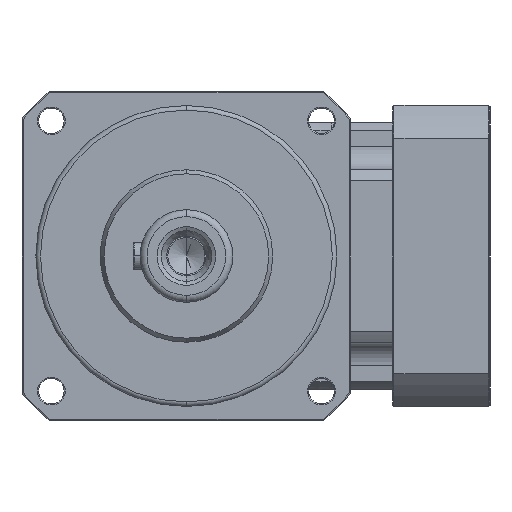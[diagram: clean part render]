
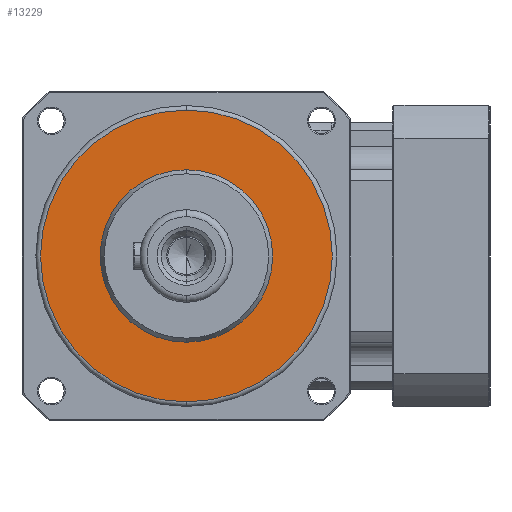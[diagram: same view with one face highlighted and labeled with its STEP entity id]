
A CAD part, left-side view. The second image highlights one B-rep face of the part: STEP entity #13229.
In plain terms, the highlighted planar face has unit normal (-1, 0, 0).
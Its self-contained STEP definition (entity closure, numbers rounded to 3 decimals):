
#19 = AXIS2_PLACEMENT_3D ( 'NONE', #5407, #1712, #10428 ) ;
#230 = DIRECTION ( 'NONE',  ( 0., 0., -1. ) ) ;
#315 = VERTEX_POINT ( 'NONE', #4492 ) ;
#1231 = DIRECTION ( 'NONE',  ( 0., 0., 1. ) ) ;
#1705 = DIRECTION ( 'NONE',  ( -1., 0., 0. ) ) ;
#1712 = DIRECTION ( 'NONE',  ( 1., 0., 0. ) ) ;
#2248 = CARTESIAN_POINT ( 'NONE',  ( -166.052, 70.432, 0. ) ) ;
#3041 = EDGE_CURVE ( 'NONE', #11304, #11654, #3718, .T. ) ;
#3065 = EDGE_LOOP ( 'NONE', ( #8021, #7749 ) ) ;
#3602 = EDGE_CURVE ( 'NONE', #11654, #11304, #13288, .T. ) ;
#3718 = CIRCLE ( 'NONE', #10474, 37.25 ) ;
#3829 = DIRECTION ( 'NONE',  ( -1., 0., 0. ) ) ;
#4492 = CARTESIAN_POINT ( 'NONE',  ( -166.052, 70.432, -63. ) ) ;
#4605 = DIRECTION ( 'NONE',  ( -1., 0., 0. ) ) ;
#4900 = DIRECTION ( 'NONE',  ( 0., 0., -1. ) ) ;
#5222 = ORIENTED_EDGE ( 'NONE', *, *, #6723, .T. ) ;
#5291 = FACE_BOUND ( 'NONE', #3065, .T. ) ;
#5298 = CARTESIAN_POINT ( 'NONE',  ( -166.052, 70.432, 0. ) ) ;
#5407 = CARTESIAN_POINT ( 'NONE',  ( -166.052, 107.682, 0. ) ) ;
#5518 = CARTESIAN_POINT ( 'NONE',  ( -166.052, 70.432, 63. ) ) ;
#5791 = DIRECTION ( 'NONE',  ( 0., 0., 1. ) ) ;
#6003 = AXIS2_PLACEMENT_3D ( 'NONE', #14842, #3829, #4900 ) ;
#6009 = DIRECTION ( 'NONE',  ( -1., 0., 0. ) ) ;
#6302 = CIRCLE ( 'NONE', #11547, 63. ) ;
#6723 = EDGE_CURVE ( 'NONE', #7591, #315, #6302, .T. ) ;
#6743 = PLANE ( 'NONE',  #19 ) ;
#7591 = VERTEX_POINT ( 'NONE', #5518 ) ;
#7749 = ORIENTED_EDGE ( 'NONE', *, *, #3041, .F. ) ;
#8021 = ORIENTED_EDGE ( 'NONE', *, *, #3602, .F. ) ;
#8542 = FACE_OUTER_BOUND ( 'NONE', #14371, .T. ) ;
#9129 = AXIS2_PLACEMENT_3D ( 'NONE', #11942, #4605, #1231 ) ;
#9676 = ORIENTED_EDGE ( 'NONE', *, *, #11377, .T. ) ;
#10428 = DIRECTION ( 'NONE',  ( 0., 0., -1. ) ) ;
#10474 = AXIS2_PLACEMENT_3D ( 'NONE', #2248, #6009, #5791 ) ;
#11304 = VERTEX_POINT ( 'NONE', #14791 ) ;
#11377 = EDGE_CURVE ( 'NONE', #315, #7591, #13011, .T. ) ;
#11547 = AXIS2_PLACEMENT_3D ( 'NONE', #5298, #1705, #230 ) ;
#11654 = VERTEX_POINT ( 'NONE', #13366 ) ;
#11942 = CARTESIAN_POINT ( 'NONE',  ( -166.052, 70.432, 0. ) ) ;
#13011 = CIRCLE ( 'NONE', #6003, 63. ) ;
#13229 = ADVANCED_FACE ( 'NONE', ( #8542, #5291 ), #6743, .F. ) ;
#13288 = CIRCLE ( 'NONE', #9129, 37.25 ) ;
#13366 = CARTESIAN_POINT ( 'NONE',  ( -166.052, 70.432, -37.25 ) ) ;
#14371 = EDGE_LOOP ( 'NONE', ( #9676, #5222 ) ) ;
#14791 = CARTESIAN_POINT ( 'NONE',  ( -166.052, 70.432, 37.25 ) ) ;
#14842 = CARTESIAN_POINT ( 'NONE',  ( -166.052, 70.432, 0. ) ) ;
